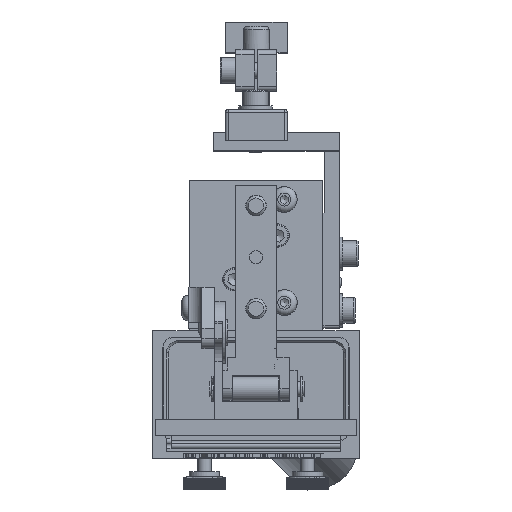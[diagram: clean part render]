
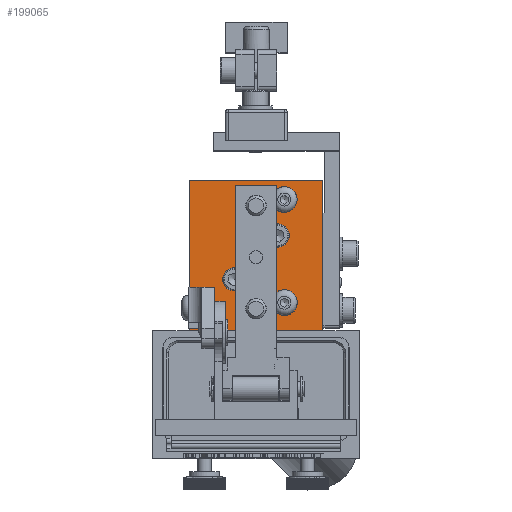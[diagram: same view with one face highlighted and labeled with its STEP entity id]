
A CAD part, top view. The second image highlights one B-rep face of the part: STEP entity #199065.
In plain terms, the highlighted planar face has unit normal (0, 0, 1).
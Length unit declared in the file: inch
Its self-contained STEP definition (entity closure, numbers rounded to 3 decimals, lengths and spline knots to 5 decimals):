
#43210=CARTESIAN_POINT('',(-1.29942,1.58765,1.5));
#43211=VERTEX_POINT('',#43210);
#43212=CARTESIAN_POINT('',(-1.17542,1.58765,1.5));
#43213=VERTEX_POINT('',#43212);
#43214=CARTESIAN_POINT('',(-1.29942,1.58765,1.5));
#43215=DIRECTION('',(1.0,0.0,0.0));
#43216=VECTOR('',#43215,0.124);
#43217=LINE('',#43214,#43216);
#43218=EDGE_CURVE('',#43211,#43213,#43217,.T.);
#43277=CARTESIAN_POINT('',(-0.98842,1.58765,1.5));
#43278=VERTEX_POINT('',#43277);
#43285=CARTESIAN_POINT('',(-1.17542,1.58765,1.5));
#43286=DIRECTION('',(1.0,0.0,0.0));
#43287=VECTOR('',#43286,0.187);
#43288=LINE('',#43285,#43287);
#43289=EDGE_CURVE('',#43213,#43278,#43288,.T.);
#43516=CARTESIAN_POINT('',(-1.17542,1.16265,1.5));
#43517=VERTEX_POINT('',#43516);
#43524=CARTESIAN_POINT('',(-0.98842,1.16265,1.5));
#43525=VERTEX_POINT('',#43524);
#43526=CARTESIAN_POINT('',(-0.98842,1.16265,1.5));
#43527=DIRECTION('',(-1.0,0.0,0.0));
#43528=VECTOR('',#43527,0.187);
#43529=LINE('',#43526,#43528);
#43530=EDGE_CURVE('',#43525,#43517,#43529,.T.);
#43704=CARTESIAN_POINT('',(-0.98842,1.58765,1.5));
#43705=DIRECTION('',(0.0,-1.0,0.0));
#43706=VECTOR('',#43705,0.425);
#43707=LINE('',#43704,#43706);
#43708=EDGE_CURVE('',#43278,#43525,#43707,.T.);
#43869=CARTESIAN_POINT('',(-1.29942,1.08765,1.5));
#43870=VERTEX_POINT('',#43869);
#43877=CARTESIAN_POINT('',(-1.17542,1.08765,1.5));
#43878=VERTEX_POINT('',#43877);
#43879=CARTESIAN_POINT('',(-1.17542,1.08765,1.5));
#43880=DIRECTION('',(-1.0,0.0,0.0));
#43881=VECTOR('',#43880,0.124);
#43882=LINE('',#43879,#43881);
#43883=EDGE_CURVE('',#43878,#43870,#43882,.T.);
#43958=CARTESIAN_POINT('',(-1.17542,1.16265,1.5));
#43959=DIRECTION('',(0.0,-1.0,0.0));
#43960=VECTOR('',#43959,0.075);
#43961=LINE('',#43958,#43960);
#43962=EDGE_CURVE('',#43517,#43878,#43961,.T.);
#121556=CARTESIAN_POINT('',(-0.06795,2.78763,1.5));
#121557=VERTEX_POINT('',#121556);
#121558=CARTESIAN_POINT('',(-0.24168,2.52969,1.5));
#121559=VERTEX_POINT('',#121558);
#121560=CARTESIAN_POINT('',(-0.14442,2.65165,1.5));
#121561=DIRECTION('',(0.,0.,-1.));
#121562=DIRECTION('',(0.49,0.872,0.));
#121563=AXIS2_PLACEMENT_3D('',#121560,#121561,#121562);
#121564=CIRCLE('',#121563,0.156);
#121565=EDGE_CURVE('',#121557,#121559,#121564,.T.);
#121567=CARTESIAN_POINT('',(-0.2841,2.72112,1.5));
#121568=VERTEX_POINT('',#121567);
#121569=CARTESIAN_POINT('',(-0.14442,2.65165,1.5));
#121570=DIRECTION('',(0.,0.,-1.));
#121571=DIRECTION('',(0.49,0.872,0.));
#121572=AXIS2_PLACEMENT_3D('',#121569,#121570,#121571);
#121573=CIRCLE('',#121572,0.156);
#121574=EDGE_CURVE('',#121568,#121557,#121573,.T.);
#121844=CARTESIAN_POINT('',(-0.48742,2.82565,1.5));
#121845=VERTEX_POINT('',#121844);
#121846=CARTESIAN_POINT('',(-0.48742,2.57565,1.5));
#121847=DIRECTION('',(0.0,0.0,-1.0));
#121848=DIRECTION('',(-1.0,0.0,0.0));
#121849=AXIS2_PLACEMENT_3D('',#121846,#121847,#121848);
#121850=CIRCLE('',#121849,0.25);
#121851=EDGE_CURVE('',#121845,#121568,#121850,.T.);
#121853=CARTESIAN_POINT('',(-0.48742,2.57565,1.5));
#121854=DIRECTION('',(0.0,0.0,-1.0));
#121855=DIRECTION('',(-1.0,0.0,0.0));
#121856=AXIS2_PLACEMENT_3D('',#121853,#121854,#121855);
#121857=CIRCLE('',#121856,0.25);
#121858=EDGE_CURVE('',#121559,#121845,#121857,.T.);
#121936=CARTESIAN_POINT('',(-0.24168,1.27969,1.5));
#121937=VERTEX_POINT('',#121936);
#121938=CARTESIAN_POINT('',(-0.2841,1.47112,1.5));
#121939=VERTEX_POINT('',#121938);
#121947=CARTESIAN_POINT('',(-0.48742,1.57565,1.5));
#121948=VERTEX_POINT('',#121947);
#121949=CARTESIAN_POINT('',(-0.48742,1.32565,1.5));
#121950=DIRECTION('',(0.0,0.0,-1.0));
#121951=DIRECTION('',(-1.0,0.0,0.0));
#121952=AXIS2_PLACEMENT_3D('',#121949,#121950,#121951);
#121953=CIRCLE('',#121952,0.25);
#121954=EDGE_CURVE('',#121948,#121939,#121953,.T.);
#121956=CARTESIAN_POINT('',(-0.48742,1.32565,1.5));
#121957=DIRECTION('',(0.0,0.0,-1.0));
#121958=DIRECTION('',(-1.0,0.0,0.0));
#121959=AXIS2_PLACEMENT_3D('',#121956,#121957,#121958);
#121960=CIRCLE('',#121959,0.25);
#121961=EDGE_CURVE('',#121937,#121948,#121960,.T.);
#183279=CARTESIAN_POINT('',(-1.29942,2.88565,1.5));
#183280=VERTEX_POINT('',#183279);
#183281=CARTESIAN_POINT('',(-1.29942,1.58765,1.5));
#183282=DIRECTION('',(0.0,1.0,0.0));
#183283=VECTOR('',#183282,1.298);
#183284=LINE('',#183281,#183283);
#183285=EDGE_CURVE('',#43211,#183280,#183284,.T.);
#183302=CARTESIAN_POINT('',(-1.29942,1.06065,1.5));
#183303=VERTEX_POINT('',#183302);
#183310=CARTESIAN_POINT('',(-1.29942,1.06065,1.5));
#183311=DIRECTION('',(0.0,1.0,0.0));
#183312=VECTOR('',#183311,0.027);
#183313=LINE('',#183310,#183312);
#183314=EDGE_CURVE('',#183303,#43870,#183313,.T.);
#184424=CARTESIAN_POINT('',(-0.08142,2.21565,1.5));
#184425=VERTEX_POINT('',#184424);
#184426=CARTESIAN_POINT('',(-0.22242,2.21565,1.5));
#184427=DIRECTION('',(0.0,0.0,-1.0));
#184428=DIRECTION('',(1.0,0.0,0.0));
#184429=AXIS2_PLACEMENT_3D('',#184426,#184427,#184428);
#184430=CIRCLE('',#184429,0.141);
#184431=EDGE_CURVE('',#184425,#184425,#184430,.T.);
#197833=CARTESIAN_POINT('',(0.32458,2.88565,1.5));
#197834=VERTEX_POINT('',#197833);
#197835=CARTESIAN_POINT('',(0.32458,1.06065,1.5));
#197836=VERTEX_POINT('',#197835);
#197837=CARTESIAN_POINT('',(0.32458,2.88565,1.5));
#197838=DIRECTION('',(0.0,-1.0,0.0));
#197839=VECTOR('',#197838,1.825);
#197840=LINE('',#197837,#197839);
#197841=EDGE_CURVE('',#197834,#197836,#197840,.T.);
#198428=CARTESIAN_POINT('',(-0.61142,1.68565,1.5));
#198429=VERTEX_POINT('',#198428);
#198430=CARTESIAN_POINT('',(-0.75242,1.68565,1.5));
#198431=DIRECTION('',(0.0,0.0,-1.0));
#198432=DIRECTION('',(1.0,0.0,0.0));
#198433=AXIS2_PLACEMENT_3D('',#198430,#198431,#198432);
#198434=CIRCLE('',#198433,0.141);
#198435=EDGE_CURVE('',#198429,#198429,#198434,.T.);
#198559=CARTESIAN_POINT('',(-0.37805,1.95065,1.5));
#198560=VERTEX_POINT('',#198559);
#198561=CARTESIAN_POINT('',(-0.48742,1.95065,1.5));
#198562=DIRECTION('',(0.0,0.0,-1.0));
#198563=DIRECTION('',(-1.0,0.0,0.0));
#198564=AXIS2_PLACEMENT_3D('',#198561,#198562,#198563);
#198565=CIRCLE('',#198564,0.10938);
#198566=EDGE_CURVE('',#198560,#198560,#198565,.T.);
#198825=CARTESIAN_POINT('',(-1.29942,1.06065,1.5));
#198826=DIRECTION('',(1.0,0.0,0.0));
#198827=VECTOR('',#198826,1.624);
#198828=LINE('',#198825,#198827);
#198829=EDGE_CURVE('',#183303,#197836,#198828,.T.);
#199000=CARTESIAN_POINT('',(-1.29942,2.88565,1.5));
#199001=DIRECTION('',(1.0,0.0,0.0));
#199002=VECTOR('',#199001,1.624);
#199003=LINE('',#199000,#199002);
#199004=EDGE_CURVE('',#183280,#197834,#199003,.T.);
#199012=CARTESIAN_POINT('',(-0.48742,1.06209,1.5));
#199013=DIRECTION('',(0.0,0.0,1.0));
#199014=DIRECTION('',(1.0,0.0,0.0));
#199015=AXIS2_PLACEMENT_3D('',#199012,#199013,#199014);
#199016=PLANE('',#199015);
#199017=ORIENTED_EDGE('',*,*,#43530,.T.);
#199018=ORIENTED_EDGE('',*,*,#43962,.T.);
#199019=ORIENTED_EDGE('',*,*,#43883,.T.);
#199020=ORIENTED_EDGE('',*,*,#183314,.F.);
#199021=ORIENTED_EDGE('',*,*,#198829,.T.);
#199022=ORIENTED_EDGE('',*,*,#197841,.F.);
#199023=ORIENTED_EDGE('',*,*,#199004,.F.);
#199024=ORIENTED_EDGE('',*,*,#183285,.F.);
#199025=ORIENTED_EDGE('',*,*,#43218,.T.);
#199026=ORIENTED_EDGE('',*,*,#43289,.T.);
#199027=ORIENTED_EDGE('',*,*,#43708,.T.);
#199028=EDGE_LOOP('',(#199017,#199018,#199019,#199020,#199021,#199022,#199023,#199024,#199025,#199026,#199027));
#199029=FACE_OUTER_BOUND('',#199028,.T.);
#199030=ORIENTED_EDGE('',*,*,#184431,.T.);
#199031=EDGE_LOOP('',(#199030));
#199032=FACE_BOUND('',#199031,.T.);
#199033=ORIENTED_EDGE('',*,*,#198435,.T.);
#199034=EDGE_LOOP('',(#199033));
#199035=FACE_BOUND('',#199034,.T.);
#199036=ORIENTED_EDGE('',*,*,#121574,.T.);
#199037=ORIENTED_EDGE('',*,*,#121565,.T.);
#199038=ORIENTED_EDGE('',*,*,#121858,.T.);
#199039=ORIENTED_EDGE('',*,*,#121851,.T.);
#199040=EDGE_LOOP('',(#199036,#199037,#199038,#199039));
#199041=FACE_BOUND('',#199040,.T.);
#199042=CARTESIAN_POINT('',(-0.05956,1.53255,1.5));
#199043=VERTEX_POINT('',#199042);
#199044=CARTESIAN_POINT('',(-0.14442,1.40165,1.5));
#199045=DIRECTION('',(0.,0.,-1.0));
#199046=DIRECTION('',(0.544,0.839,0.));
#199047=AXIS2_PLACEMENT_3D('',#199044,#199045,#199046);
#199048=CIRCLE('',#199047,0.156);
#199049=EDGE_CURVE('',#121939,#199043,#199048,.T.);
#199050=ORIENTED_EDGE('',*,*,#199049,.T.);
#199051=CARTESIAN_POINT('',(-0.14442,1.40165,1.5));
#199052=DIRECTION('',(0.,0.,-1.0));
#199053=DIRECTION('',(0.544,0.839,0.));
#199054=AXIS2_PLACEMENT_3D('',#199051,#199052,#199053);
#199055=CIRCLE('',#199054,0.156);
#199056=EDGE_CURVE('',#199043,#121937,#199055,.T.);
#199057=ORIENTED_EDGE('',*,*,#199056,.T.);
#199058=ORIENTED_EDGE('',*,*,#121961,.T.);
#199059=ORIENTED_EDGE('',*,*,#121954,.T.);
#199060=EDGE_LOOP('',(#199050,#199057,#199058,#199059));
#199061=FACE_BOUND('',#199060,.T.);
#199062=ORIENTED_EDGE('',*,*,#198566,.T.);
#199063=EDGE_LOOP('',(#199062));
#199064=FACE_BOUND('',#199063,.T.);
#199065=ADVANCED_FACE('',(#199029,#199032,#199035,#199041,#199061,#199064),#199016,.T.);
